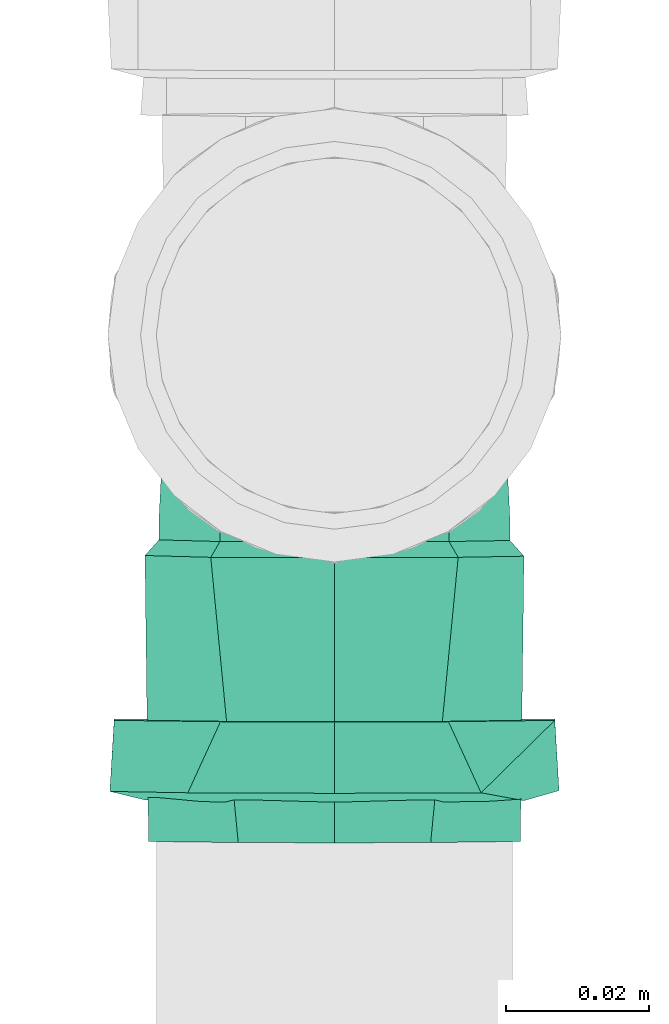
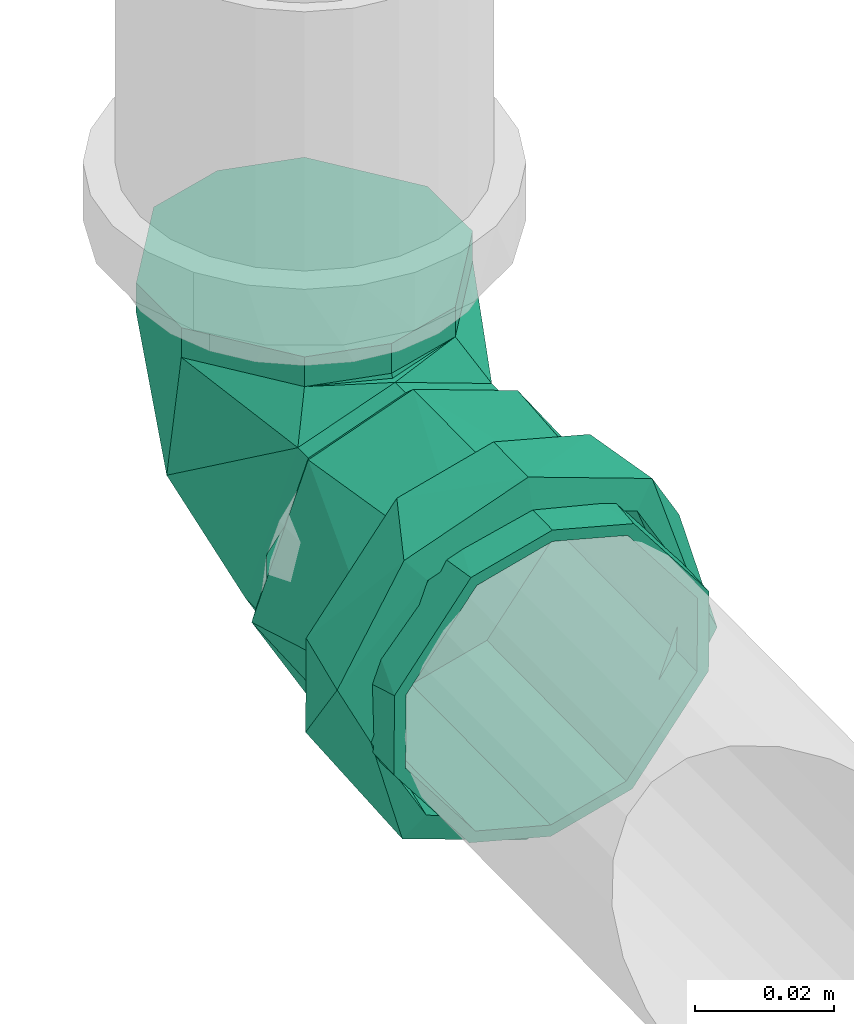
# One storey, part 112 of 589: 1 flow fitting.
"""IFC2X3 building model written with IfcOpenShell, lengths in millimetres."""

from ifc_helpers import new_model, entity, si_unit, converted_unit, derived_unit, direction, frame, origin, place, context, subcontext, project, spatial, faceted_brep, source, transform, mapped, material, type_object, type_shapes, element, save


model = new_model("IFC2X3")

# Units and contexts
model_context = context("Model", 3, precision=0.01, world=origin(), true_north=direction((6.123031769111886e-17, 1.0)))
body_context = subcontext(model_context, "Body", "Model", "MODEL_VIEW")
ifc_project = project(units=[si_unit("LENGTHUNIT", "METRE", prefix="MILLI"), si_unit("AREAUNIT", "SQUARE_METRE"), si_unit("VOLUMEUNIT", "CUBIC_METRE"), converted_unit("PLANEANGLEUNIT", "DEGREE", entity("IfcRatioMeasure", 0.017453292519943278), si_unit("PLANEANGLEUNIT", "RADIAN"), dimensions=[0, 0, 0, 0, 0, 0, 0]), si_unit("MASSUNIT", "GRAM", prefix="KILO"), derived_unit("MASSDENSITYUNIT", [(si_unit("MASSUNIT", "GRAM", prefix="KILO"), 1), (si_unit("LENGTHUNIT", "METRE"), -3)]), derived_unit("IONCONCENTRATIONUNIT", [(si_unit("MASSUNIT", "GRAM", prefix="KILO"), 1), (si_unit("LENGTHUNIT", "METRE"), -3)]), derived_unit("MOMENTOFINERTIAUNIT", [(si_unit("LENGTHUNIT", "METRE"), 4)]), si_unit("TIMEUNIT", "SECOND"), si_unit("FREQUENCYUNIT", "HERTZ"), si_unit("THERMODYNAMICTEMPERATUREUNIT", "DEGREE_CELSIUS"), derived_unit("THERMALTRANSMITTANCEUNIT", [(si_unit("MASSUNIT", "GRAM", prefix="KILO"), 1), (si_unit("THERMODYNAMICTEMPERATUREUNIT", "KELVIN"), -1), (si_unit("TIMEUNIT", "SECOND"), -3)]), derived_unit("THERMALCONDUCTANCEUNIT", [(si_unit("MASSUNIT", "GRAM", prefix="KILO"), 1), (si_unit("THERMODYNAMICTEMPERATUREUNIT", "KELVIN"), -1), (si_unit("TIMEUNIT", "SECOND"), -3), (si_unit("LENGTHUNIT", "METRE"), 1)]), derived_unit("VOLUMETRICFLOWRATEUNIT", [(si_unit("LENGTHUNIT", "METRE"), 3), (si_unit("TIMEUNIT", "SECOND"), -1)]), derived_unit("MASSFLOWRATEUNIT", [(si_unit("MASSUNIT", "GRAM", prefix="KILO"), 1), (si_unit("TIMEUNIT", "SECOND"), -1)]), derived_unit("ROTATIONALFREQUENCYUNIT", [(si_unit("TIMEUNIT", "SECOND"), -1)]), si_unit("ELECTRICCURRENTUNIT", "AMPERE"), si_unit("ELECTRICVOLTAGEUNIT", "VOLT"), si_unit("POWERUNIT", "WATT"), si_unit("FORCEUNIT", "NEWTON", prefix="KILO"), si_unit("ILLUMINANCEUNIT", "LUX"), si_unit("LUMINOUSFLUXUNIT", "LUMEN"), si_unit("LUMINOUSINTENSITYUNIT", "CANDELA"), derived_unit("USERDEFINED", [(si_unit("MASSUNIT", "GRAM", prefix="KILO"), -1), (si_unit("LENGTHUNIT", "METRE"), -2), (si_unit("TIMEUNIT", "SECOND"), 3), (si_unit("LUMINOUSFLUXUNIT", "LUMEN"), 1)]), derived_unit("USERDEFINED", [(si_unit("MASSUNIT", "GRAM", prefix="KILO"), 1), (si_unit("TIMEUNIT", "SECOND"), -3), (si_unit("LENGTHUNIT", "METRE"), 3), (si_unit("ELECTRICCURRENTUNIT", "AMPERE"), -2)]), derived_unit("SOUNDPOWERUNIT", [(si_unit("MASSUNIT", "GRAM", prefix="KILO"), 1), (si_unit("TIMEUNIT", "SECOND"), -3), (si_unit("LENGTHUNIT", "METRE"), 2)]), derived_unit("SOUNDPRESSUREUNIT", [(si_unit("MASSUNIT", "GRAM", prefix="KILO"), 1), (si_unit("LENGTHUNIT", "METRE"), -1), (si_unit("TIMEUNIT", "SECOND"), -2)]), derived_unit("LINEARVELOCITYUNIT", [(si_unit("LENGTHUNIT", "METRE"), 1), (si_unit("TIMEUNIT", "SECOND"), -1)]), si_unit("PRESSUREUNIT", "PASCAL"), derived_unit("USERDEFINED", [(si_unit("MASSUNIT", "GRAM", prefix="KILO"), 1), (si_unit("LENGTHUNIT", "METRE"), -2), (si_unit("TIMEUNIT", "SECOND"), -2)]), derived_unit("LINEARFORCEUNIT", [(si_unit("MASSUNIT", "GRAM", prefix="KILO"), 1), (si_unit("TIMEUNIT", "SECOND"), -2)]), derived_unit("PLANARFORCEUNIT", [(si_unit("MASSUNIT", "GRAM", prefix="KILO"), 1), (si_unit("LENGTHUNIT", "METRE"), -1), (si_unit("TIMEUNIT", "SECOND"), -2)]), derived_unit("SPECIFICHEATCAPACITYUNIT", [(si_unit("THERMODYNAMICTEMPERATUREUNIT", "KELVIN"), -1), (si_unit("LENGTHUNIT", "METRE"), 2), (si_unit("TIMEUNIT", "SECOND"), -2)]), derived_unit("HEATINGVALUEUNIT", [(si_unit("LENGTHUNIT", "METRE"), 2), (si_unit("TIMEUNIT", "SECOND"), -2)]), derived_unit("VAPORPERMEABILITYUNIT", [(si_unit("LENGTHUNIT", "METRE"), -1), (si_unit("TIMEUNIT", "SECOND"), 1)]), derived_unit("DYNAMICVISCOSITYUNIT", [(si_unit("MASSUNIT", "GRAM", prefix="KILO"), 1), (si_unit("TIMEUNIT", "SECOND"), -1), (si_unit("LENGTHUNIT", "METRE"), -1)]), derived_unit("THERMALEXPANSIONCOEFFICIENTUNIT", [(si_unit("THERMODYNAMICTEMPERATUREUNIT", "KELVIN"), -1)]), derived_unit("MODULUSOFELASTICITYUNIT", [(si_unit("MASSUNIT", "GRAM", prefix="KILO"), 1), (si_unit("LENGTHUNIT", "METRE"), -1), (si_unit("TIMEUNIT", "SECOND"), -2)]), derived_unit("ISOTHERMALMOISTURECAPACITYUNIT", [(si_unit("LENGTHUNIT", "METRE"), 3), (si_unit("MASSUNIT", "GRAM", prefix="KILO"), -1)]), derived_unit("MOISTUREDIFFUSIVITYUNIT", [(si_unit("TIMEUNIT", "SECOND"), -1), (si_unit("LENGTHUNIT", "METRE"), 2)])], contexts=[model_context])

# Site, building, storey
site_placement = place(None, origin())
site = spatial("IfcSite", under=ifc_project, at=site_placement, Name="Default", CompositionType="ELEMENT")
building_placement = place(site_placement, origin())
building = spatial("IfcBuilding", under=site, at=building_placement, CompositionType="ELEMENT")
storey_placement = place(building_placement, frame((0.0, 0.0, 100.0)))
storey = spatial("IfcBuildingStorey", under=building, at=storey_placement, Name="TÉRREO", CompositionType="ELEMENT", Elevation=100.0)

# Flow fitting
ifc_material = material(Name="PVC Série Normal")
pipe_fitting_type = type_object("IfcPipeFittingType", Name="PVC Esgoto_Joelho 45_90_Rodrigo MEP:a. Série Normal", PredefinedType="NOTDEFINED", material=ifc_material)
shared_shape = source(origin(), body_context, "Body", "Brep", [
    faceted_brep([(-6.212752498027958, 25.804714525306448, 24.14814565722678), (-21.392152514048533, 25.95650852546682, 12.500000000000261), (-24.741349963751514, 25.990000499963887, 0.0), (-21.392152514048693, 25.956508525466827, -12.499999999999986), (-6.21275249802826, 25.804714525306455, -24.1481456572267), (6.727552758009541, 25.675311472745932, -24.14814565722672), (21.906952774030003, 25.52351747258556, -12.500000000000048), (25.256150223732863, 25.490025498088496, 0.0), (21.906952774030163, 25.52351747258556, 12.499999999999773), (6.7275527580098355, 25.675311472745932, 24.148145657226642), (25.308147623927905, 30.689765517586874, 0.0), (21.958950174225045, 30.72325749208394, -12.500000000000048), (6.779550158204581, 30.87505149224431, -24.14814565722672), (-6.160755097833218, 31.004454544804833, -24.1481456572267), (-21.34015511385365, 31.156248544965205, -12.499999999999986), (-24.689352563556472, 31.18974051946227, 0.0), (-21.340155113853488, 31.1562485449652, 12.500000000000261), (-6.160755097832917, 31.00445454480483, 24.14814565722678), (6.779550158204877, 30.87505149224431, 24.148145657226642), (21.958950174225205, 30.72325749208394, 12.499999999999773)], [[[0, 1, 2, 3, 4, 5, 6, 7, 8, 9]], [[10, 11, 12, 13, 14, 15, 16, 17, 18, 19]], [[7, 10, 19, 8]], [[8, 19, 18, 9]], [[18, 17, 0, 9]], [[0, 17, 16, 1]], [[1, 16, 15, 2]], [[2, 15, 14, 3]], [[3, 14, 13, 4]], [[13, 12, 5, 4]], [[5, 12, 11, 6]], [[6, 11, 10, 7]]]),
    faceted_brep([(-70.94129996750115, -6.988114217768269, -26.07999730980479), (-70.94129996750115, -6.47047612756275, -24.14814565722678), (-70.94129996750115, 6.4704761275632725, -24.148145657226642), (-70.94129996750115, -23.382685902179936, -13.499999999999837), (-70.94129996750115, 6.988114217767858, -26.0799973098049), (-70.94129996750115, -21.650635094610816, -12.500000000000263), (-70.94129996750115, -25.0, 0.0), (-70.94129996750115, -27.0, 0.0), (-70.94129996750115, -21.650635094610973, 12.499999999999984), (-70.94129996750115, -23.382685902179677, 13.500000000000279), (-70.94129996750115, -6.470476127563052, 24.1481456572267), (-70.94129996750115, -6.98811421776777, 26.079997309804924), (-70.94129996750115, 6.470476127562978, 24.14814565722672), (-70.94129996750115, 6.988114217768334, 26.07999730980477), (-70.94129996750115, 21.650635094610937, 12.500000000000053), (-70.94129996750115, 23.38268590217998, 13.499999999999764), (-70.94129996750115, 27.0, 0.0), (-70.94129996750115, 25.0, 0.0), (-70.94129996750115, 23.382685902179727, -13.500000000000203), (-70.94129996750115, 21.6506350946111, -12.499999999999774), (-30.94129996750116, 21.650635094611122, -12.499999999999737), (-30.94129996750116, 25.0, 0.0), (-30.94129996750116, 6.4704761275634, -24.148145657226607), (-30.94129996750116, -6.470476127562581, -24.148145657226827), (-30.94129996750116, -21.650635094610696, -12.500000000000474), (-30.94129996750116, -25.0, 0.0), (-30.94129996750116, -21.65063509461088, 12.500000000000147), (-30.94129996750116, -6.470476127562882, 24.14814565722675), (-30.94129996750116, 6.470476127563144, 24.148145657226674), (-30.94129996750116, 21.650635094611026, 12.499999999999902), (-30.94129996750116, 27.0, 0.0), (-30.941299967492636, 20.682232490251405, 17.356418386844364), (-30.94129996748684, 4.685536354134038, 26.59033187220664), (-30.94129996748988, -20.686585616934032, 17.35122979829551), (-30.94129996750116, -27.0, 0.0), (-30.941299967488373, -8.000524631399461, 21.970780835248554), (-30.94129996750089, -20.686585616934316, -17.35122979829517), (-30.9412999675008, -4.6922062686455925, -26.589155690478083), (-30.94129996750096, 20.682232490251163, -17.356418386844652), (-30.94129996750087, 7.995013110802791, -21.97278703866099), (-28.74129996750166, -4.338459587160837, -24.62067765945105), (-28.741299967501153, 25.0, 0.0), (-28.741299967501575, 19.154245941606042, -16.065953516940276), (-28.741299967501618, 7.407893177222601, -20.34331558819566), (-28.741299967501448, -19.15021526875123, -16.070757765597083), (-28.741299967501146, -25.0, 0.0), (-28.741299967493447, -19.150215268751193, 16.07075776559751), (-28.741299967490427, -7.402789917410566, 20.345173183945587), (-28.74129996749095, 19.15424594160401, 16.065953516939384), (-28.741299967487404, 4.344635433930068, 24.619588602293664), (-25.741299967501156, 25.0, 0.0), (-25.741299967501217, 19.151286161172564, 16.069481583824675), (-25.741299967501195, 4.341396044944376, 24.62016003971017), (-25.741299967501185, -7.404832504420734, 20.344954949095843), (-25.741299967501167, -19.15106105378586, 16.069749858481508), (-25.741299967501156, -25.0, 0.0), (-25.741299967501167, -19.15106105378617, -16.069749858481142), (-25.741299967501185, -4.341051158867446, -24.62022085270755), (-25.741299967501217, 19.15128616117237, -16.069481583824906), (-25.7412999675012, 7.405117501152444, -20.344851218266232), (-6.212752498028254, 25.80471452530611, -24.1481456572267), (-21.39215251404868, 25.95650852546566, -12.499999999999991), (-24.74134996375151, 25.990000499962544, 0.0), (-21.3921525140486, 25.956508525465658, 12.500000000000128), (-6.2127524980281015, 25.80471452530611, 24.14814565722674), (6.7275527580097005, 25.67531147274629, 24.148145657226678), (21.906952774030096, 25.52351747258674, 12.499999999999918), (25.256150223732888, 25.490025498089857, 0.0), (21.90695277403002, 25.523517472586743, -12.500000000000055), (6.727552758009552, 25.67531147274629, -24.14814565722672), (-0.83580225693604, 1.5246716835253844, 23.354962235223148), (-3.2027279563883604, -15.730161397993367, 0.0), (10.140389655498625, -10.242300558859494, 0.0), (16.135012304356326, 8.632944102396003, 15.848254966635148), (-25.03773742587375, 25.289366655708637, 0.0), (15.761400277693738, 3.0452732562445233, 0.0), (16.135011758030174, 8.632944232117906, -15.848255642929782), (-0.8751695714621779, 1.433288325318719, -23.341145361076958)], [[[0, 1, 2]], [[1, 0, 3]], [[2, 4, 0]], [[3, 5, 1]], [[3, 6, 5]], [[6, 3, 7]], [[8, 6, 7]], [[8, 7, 9]], [[9, 10, 8]], [[9, 11, 10]], [[10, 11, 12]], [[13, 12, 11]], [[13, 14, 12]], [[14, 13, 15]], [[16, 14, 15]], [[17, 14, 16]], [[18, 17, 16]], [[18, 19, 17]], [[19, 18, 4]], [[4, 2, 19]], [[20, 21, 17, 19]], [[22, 20, 19, 2]], [[2, 1, 23, 22]], [[24, 23, 1, 5]], [[25, 24, 5, 6]], [[26, 25, 6, 8]], [[27, 26, 8, 10]], [[10, 12, 28, 27]], [[29, 28, 12, 14]], [[21, 29, 14, 17]], [[16, 15, 30]], [[15, 31, 30]], [[31, 15, 13]], [[31, 13, 32]], [[33, 11, 9]], [[34, 9, 7]], [[11, 33, 35, 32]], [[33, 9, 34]], [[11, 32, 13]], [[7, 3, 34]], [[3, 36, 34]], [[36, 3, 0]], [[36, 0, 37]], [[38, 4, 18]], [[30, 18, 16]], [[4, 38, 39, 37]], [[38, 18, 30]], [[4, 37, 0]], [[28, 29, 21, 20, 22, 23, 24, 25, 26, 27]], [[39, 40, 37]], [[41, 42, 30]], [[30, 42, 38]], [[38, 43, 39]], [[44, 45, 36]], [[38, 42, 43]], [[36, 37, 44]], [[34, 36, 45]], [[40, 39, 43]], [[44, 37, 40]], [[45, 46, 33]], [[33, 34, 45]], [[46, 35, 33]], [[46, 47, 35]], [[47, 32, 35]], [[48, 41, 30]], [[48, 31, 49]], [[31, 48, 30]], [[32, 47, 49]], [[49, 31, 32]], [[41, 48, 50]], [[48, 51, 50]], [[51, 48, 49]], [[51, 49, 52]], [[52, 47, 53]], [[46, 54, 53]], [[46, 45, 54]], [[49, 47, 52]], [[54, 45, 55]], [[47, 46, 53]], [[45, 44, 56]], [[45, 56, 55]], [[56, 44, 57]], [[58, 59, 43]], [[44, 40, 57]], [[40, 59, 57]], [[58, 43, 42]], [[42, 50, 58]], [[50, 42, 41]], [[59, 40, 43]], [[60, 61, 62, 63, 64, 65, 66, 67, 68, 69]], [[52, 70, 51]], [[54, 71, 70]], [[70, 52, 53, 54]], [[72, 73, 70]], [[50, 63, 74]], [[51, 63, 50]], [[54, 55, 71]], [[72, 70, 71]], [[75, 67, 66]], [[65, 70, 73]], [[73, 75, 66]], [[74, 63, 62]], [[73, 66, 65]], [[63, 51, 64]], [[70, 64, 51]], [[73, 72, 75]], [[65, 64, 70]], [[72, 76, 75]], [[71, 55, 56]], [[77, 58, 60]], [[77, 57, 59, 58]], [[77, 71, 56]], [[56, 57, 77]], [[77, 69, 76]], [[58, 50, 61]], [[74, 62, 61]], [[71, 77, 72]], [[61, 60, 58]], [[68, 75, 76]], [[68, 67, 75]], [[72, 77, 76]], [[76, 69, 68]], [[60, 69, 77]], [[61, 50, 74]]]),
    faceted_brep([(-53.94129996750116, 6.9881142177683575, -26.07999730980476), (-53.94129996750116, -6.988114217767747, -26.079997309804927), (-53.94129996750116, -8.282209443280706, -30.909626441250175), (-53.94129996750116, 8.28220944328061, -30.9096264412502), (-53.94129996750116, 23.38268590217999, -13.499999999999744), (-53.94129996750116, -27.712812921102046, -16.0), (-53.94129996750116, -23.38268590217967, -13.500000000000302), (-53.94129996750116, -27.0, 0.0), (-53.94129996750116, -32.0, 0.0), (-53.94129996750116, -23.382685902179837, 13.500000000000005), (-53.94129996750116, -27.712812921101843, 16.0), (-53.94129996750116, -6.988114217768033, 26.07999730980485), (-53.94129996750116, -8.28220944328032, 30.909626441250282), (-53.94129996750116, 6.988114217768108, 26.07999730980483), (-53.94129996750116, 8.282209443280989, 30.909626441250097), (-53.94129996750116, 23.382685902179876, 13.499999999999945), (-53.94129996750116, 27.712812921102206, 16.0), (-53.94129996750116, 32.0, 0.0), (-53.94129996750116, 27.0, 0.0), (-53.94129996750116, 27.712812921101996, -16.0), (-63.94129996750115, 27.0, 0.0), (-65.24129996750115, 27.0, 0.0), (-63.94129996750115, 25.191342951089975, -6.750000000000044), (-63.94129996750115, 23.38268590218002, -13.499999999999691), (-63.94129996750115, 19.284042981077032, -16.644999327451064), (-63.94129996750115, 15.185400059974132, -19.789998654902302), (-63.94129996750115, 11.086757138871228, -22.934997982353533), (-63.94129996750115, 6.988114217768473, -26.07999730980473), (-63.94129996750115, 0.0, -26.079997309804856), (-63.94129996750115, -6.988114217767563, -26.079997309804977), (-63.94129996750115, -11.086757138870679, -22.934997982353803), (-63.94129996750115, -15.185400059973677, -19.789998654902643), (-63.94129996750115, -19.284042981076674, -16.644999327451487), (-63.94129996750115, -23.382685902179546, -13.50000000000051), (-63.94129996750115, -25.191342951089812, -6.750000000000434), (-65.24129996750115, -27.0, 0.0), (-63.94129996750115, -27.0, 0.0), (-63.94129996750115, -25.19134295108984, 6.750000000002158), (-63.94129996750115, -23.382685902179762, 13.500000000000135), (-63.94129996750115, -19.284042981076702, 16.64499932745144), (-63.94129996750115, -15.185400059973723, 19.7899986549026), (-63.94129996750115, -11.086757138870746, 22.934997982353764), (-63.94129996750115, -6.988114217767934, 26.079997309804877), (-63.94129996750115, 0.0, 26.079997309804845), (-63.94129996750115, 6.988114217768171, 26.079997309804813), (-63.94129996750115, 11.086757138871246, 22.93499798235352), (-63.94129996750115, 15.185400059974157, 19.789998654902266), (-63.94129996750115, 19.284042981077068, 16.644999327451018), (-63.94129996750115, 23.382685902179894, 13.499999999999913), (-63.94129996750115, 25.19134295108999, 6.74999999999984), (-63.94129996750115, 32.0, 0.0), (-63.94129996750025, 24.512275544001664, 20.570569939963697), (-63.94129996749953, -5.561133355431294, 31.51307341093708), (-63.94129996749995, -24.51743480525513, 20.56442050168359), (-63.94129996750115, -32.0, 0.0), (-63.9412999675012, -24.51743480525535, -20.564420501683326), (-63.941299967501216, 5.553228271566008, -31.514467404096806), (-63.94129996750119, 24.512275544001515, -20.570569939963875), (-65.2412999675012, -23.84329280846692, -8.675614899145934), (-65.24129996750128, -20.686585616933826, -17.351229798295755), (-65.24129996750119, 23.841116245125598, -8.678209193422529), (-65.24129996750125, 20.6822324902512, -17.356418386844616), (-65.24129996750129, -12.689395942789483, -21.970192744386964), (-65.24129996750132, -4.692206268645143, -26.589155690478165), (-65.24129996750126, 14.338622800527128, -19.664602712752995), (-65.24129996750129, 1.6514034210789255, -24.280971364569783), (-65.24129996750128, 7.995013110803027, -21.97278703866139), (-65.24129996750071, 23.84111624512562, 8.678209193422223), (-65.24129996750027, 20.68223249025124, 17.35641838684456), (-65.24129996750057, -23.843292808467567, 8.675614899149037), (-65.24129996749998, -20.68658561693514, 17.351229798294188), (-65.24129996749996, 12.683884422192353, 21.973375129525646), (-65.24129996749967, 4.685536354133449, 26.590331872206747), (-65.2412999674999, -14.343555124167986, 19.66100531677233), (-65.24129996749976, -1.6574941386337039, 24.280556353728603), (-65.24129996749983, -8.000524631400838, 21.97078083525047)], [[[0, 1, 2]], [[2, 3, 0]], [[4, 0, 3]], [[5, 2, 1]], [[1, 6, 5]], [[6, 7, 5]], [[8, 5, 7]], [[8, 7, 9]], [[10, 8, 9]], [[9, 11, 10]], [[11, 12, 10]], [[13, 12, 11]], [[12, 13, 14]], [[13, 15, 14]], [[16, 14, 15]], [[16, 15, 17]], [[17, 15, 18]], [[18, 4, 19]], [[17, 18, 19]], [[3, 19, 4]], [[4, 18, 20, 21, 22, 23]], [[0, 4, 23, 24, 25, 26, 27]], [[0, 27, 28, 29, 1]], [[6, 1, 29, 30, 31, 32, 33]], [[7, 6, 33, 34, 35, 36]], [[9, 7, 36, 35, 37, 38]], [[11, 9, 38, 39, 40, 41, 42]], [[11, 42, 43, 44, 13]], [[15, 13, 44, 45, 46, 47, 48]], [[18, 15, 48, 49, 21, 20]], [[50, 51, 16]], [[50, 16, 17]], [[16, 51, 14]], [[51, 52, 14]], [[12, 52, 53]], [[10, 53, 54]], [[53, 10, 12]], [[10, 54, 8]], [[52, 12, 14]], [[54, 55, 5]], [[54, 5, 8]], [[5, 55, 2]], [[55, 56, 2]], [[3, 56, 57]], [[19, 57, 50]], [[57, 19, 3]], [[19, 50, 17]], [[56, 3, 2]], [[58, 33, 59]], [[23, 60, 61]], [[32, 31, 59, 33]], [[30, 29, 62, 31]], [[24, 23, 61, 25]], [[29, 28, 63]], [[26, 25, 64]], [[65, 63, 28]], [[31, 62, 59]], [[63, 62, 29]], [[60, 22, 21]], [[34, 58, 35]], [[66, 26, 64]], [[28, 27, 65]], [[27, 66, 65]], [[27, 26, 66]], [[64, 25, 61]], [[34, 33, 58]], [[60, 23, 22]], [[67, 48, 68]], [[38, 69, 70]], [[47, 46, 68, 48]], [[45, 44, 71, 46]], [[39, 38, 70, 40]], [[44, 43, 72]], [[41, 40, 73]], [[74, 72, 43]], [[46, 71, 68]], [[72, 71, 44]], [[69, 37, 35]], [[49, 67, 21]], [[75, 41, 73]], [[43, 42, 74]], [[42, 75, 74]], [[42, 41, 75]], [[73, 40, 70]], [[49, 48, 67]], [[69, 38, 37]], [[54, 35, 58, 59, 55]], [[55, 59, 62, 63]], [[55, 63, 56]], [[57, 61, 60, 21, 50]], [[57, 56, 61]], [[56, 63, 65, 66, 64, 61]], [[50, 21, 67, 68, 51]], [[51, 68, 71, 72]], [[51, 72, 52]], [[53, 70, 69, 35, 54]], [[53, 52, 70]], [[52, 72, 74, 75, 73, 70]]]),
])
type_shapes(pipe_fitting_type, [shared_shape])
flow_fitting_placement = place(storey_placement, frame((2699.4844981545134, 1517.7290075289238, -66.79999999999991), z_axis=(1.0, 0.0, 0.0), x_axis=(0.0, 0.9999500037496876, 0.00999950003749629)))
element("IfcFlowFitting", 1, at=flow_fitting_placement, inside=storey, type_object=pipe_fitting_type, material=ifc_material, Name="PVC Esgoto_Joelho 45_90_Rodrigo MEP:a. Série Normal", ObjectType="PVC Esgoto_Joelho 45_90_Rodrigo MEP:a. Série Normal", context=body_context, shape_type="MappedRepresentation", body=[
    mapped(shared_shape, transform((0.0, 0.0, 0.0), scale=1.0)),
])

save(model, "model.ifc")
